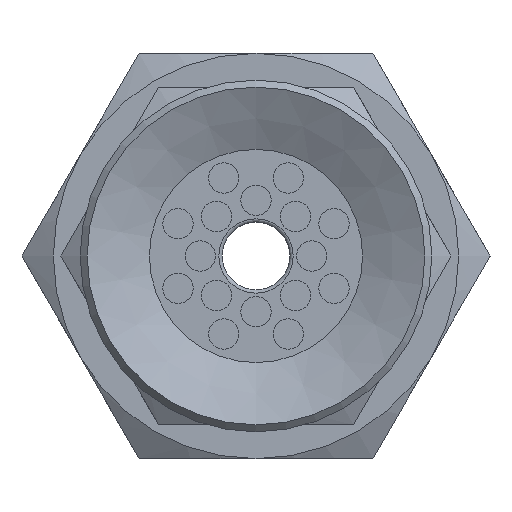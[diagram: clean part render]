
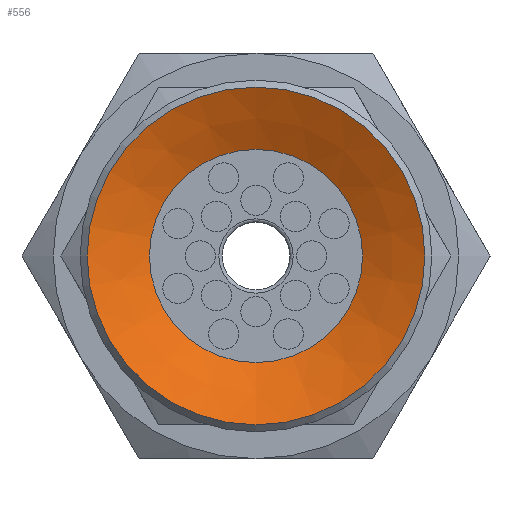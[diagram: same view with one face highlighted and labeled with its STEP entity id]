
A CAD part, front view. The second image highlights one B-rep face of the part: STEP entity #556.
In plain terms, the highlighted conical face has half-angle 64 degrees and reference radius 5 mm.
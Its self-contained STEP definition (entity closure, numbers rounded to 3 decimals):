
#556=ADVANCED_FACE('',(#881,#882),#883,.F.);
#881=FACE_BOUND('',#1274,.T.);
#882=FACE_OUTER_BOUND('',#1275,.T.);
#883=CONICAL_SURFACE('',#1276,5.0,1.117);
#1274=EDGE_LOOP('',(#1988));
#1275=EDGE_LOOP('',(#1989));
#1276=AXIS2_PLACEMENT_3D('',#1990,#1991,#1992);
#1988=ORIENTED_EDGE('',*,*,#2463,.T.);
#1989=ORIENTED_EDGE('',*,*,#2453,.F.);
#1990=CARTESIAN_POINT('',(0.0,0.,0.));
#1991=DIRECTION('',(0.0,0.,-1.0));
#1992=DIRECTION('',(0.0,1.0,0.));
#2453=EDGE_CURVE('',#2796,#2796,#2797,.T.);
#2463=EDGE_CURVE('',#2816,#2816,#2817,.T.);
#2796=VERTEX_POINT('',#3496);
#2797=CIRCLE('',#3497,5.0);
#2816=VERTEX_POINT('',#3516);
#2817=CIRCLE('',#3517,3.155);
#3496=CARTESIAN_POINT('',(0.0,-5.0,0.));
#3497=AXIS2_PLACEMENT_3D('',#4005,#4006,#4007);
#3516=CARTESIAN_POINT('',(0.0,-3.155,0.9));
#3517=AXIS2_PLACEMENT_3D('',#4035,#4036,#4037);
#4005=CARTESIAN_POINT('',(0.0,0.,0.));
#4006=DIRECTION('',(0.0,0.,1.0));
#4007=DIRECTION('',(0.0,-1.0,0.));
#4035=CARTESIAN_POINT('',(0.0,0.,0.9));
#4036=DIRECTION('',(0.0,0.,1.0));
#4037=DIRECTION('',(0.0,-1.0,0.));
